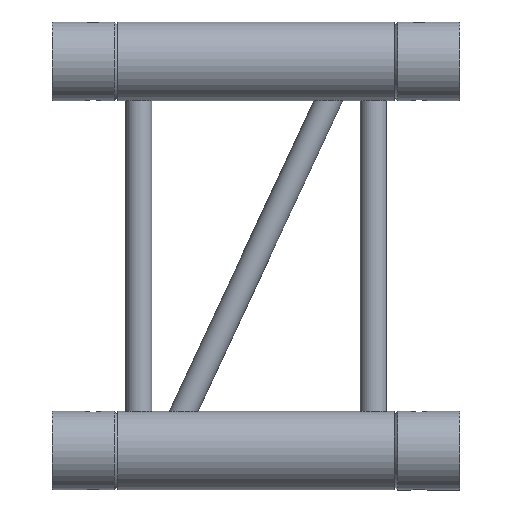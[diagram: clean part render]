
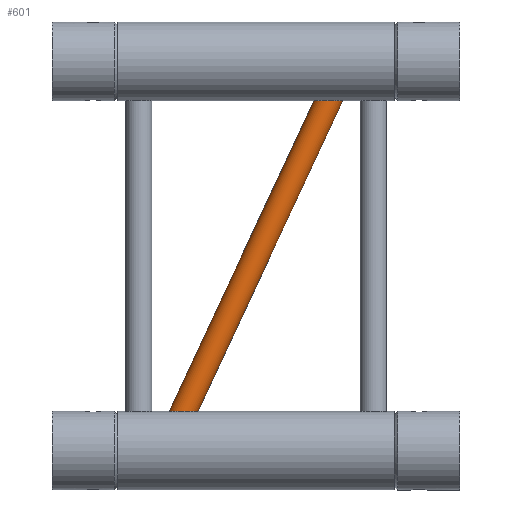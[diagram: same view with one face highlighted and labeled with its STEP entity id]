
A CAD part, top view. The second image highlights one B-rep face of the part: STEP entity #601.
In plain terms, the highlighted cylindrical face has radius 8 mm (diameter 16 mm), a full revolution.
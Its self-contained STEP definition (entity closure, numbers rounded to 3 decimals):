
#81=FACE_BOUND('',#195,.T.);
#124=CYLINDRICAL_SURFACE('',#657,8.);
#145=FACE_OUTER_BOUND('',#194,.T.);
#194=EDGE_LOOP('',(#400));
#195=EDGE_LOOP('',(#401));
#284=ELLIPSE('',#654,8.827,8.);
#285=ELLIPSE('',#656,8.827,8.);
#286=VERTEX_POINT('',#922);
#287=VERTEX_POINT('',#925);
#340=EDGE_CURVE('',#286,#286,#284,.T.);
#341=EDGE_CURVE('',#287,#287,#285,.T.);
#400=ORIENTED_EDGE('',*,*,#340,.T.);
#401=ORIENTED_EDGE('',*,*,#341,.T.);
#601=ADVANCED_FACE('',(#145,#81),#124,.T.);
#654=AXIS2_PLACEMENT_3D('',#923,#744,#745);
#656=AXIS2_PLACEMENT_3D('',#926,#748,#749);
#657=AXIS2_PLACEMENT_3D('',#927,#750,#751);
#744=DIRECTION('center_axis',(0.,-1.,0.));
#745=DIRECTION('ref_axis',(-1.,0.,0.));
#748=DIRECTION('center_axis',(0.,1.,0.));
#749=DIRECTION('ref_axis',(-1.,0.,0.));
#750=DIRECTION('center_axis',(-0.423,-0.906,0.));
#751=DIRECTION('ref_axis',(-0.906,0.423,0.));
#922=CARTESIAN_POINT('',(178.286,214.844,0.));
#923=CARTESIAN_POINT('Origin',(169.459,214.844,0.));
#925=CARTESIAN_POINT('',(71.714,24.156,0.));
#926=CARTESIAN_POINT('Origin',(80.541,24.156,0.));
#927=CARTESIAN_POINT('Origin',(125.,119.5,0.));
